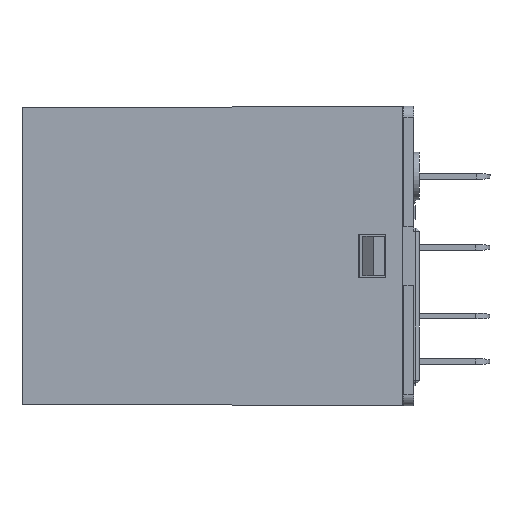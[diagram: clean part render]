
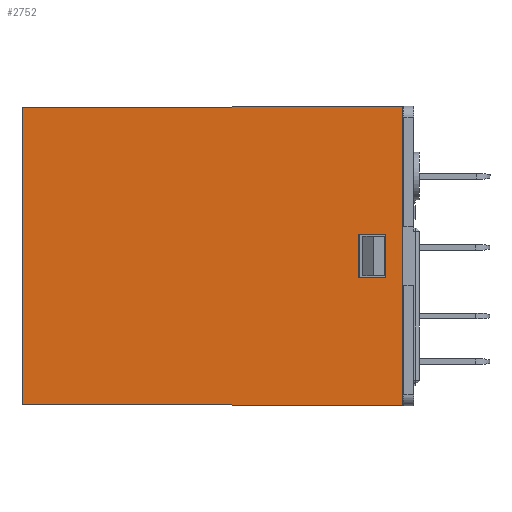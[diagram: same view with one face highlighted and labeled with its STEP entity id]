
A CAD part, left-side view. The second image highlights one B-rep face of the part: STEP entity #2752.
In plain terms, the highlighted planar face has unit normal (-1, 0.004, 0).
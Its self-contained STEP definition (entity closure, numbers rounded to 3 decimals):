
#605 = CARTESIAN_POINT ( 'NONE',  ( -10.45, -13.113, 2.47 ) ) ;
#683 = LINE ( 'NONE', #2312, #5050 ) ;
#708 = EDGE_CURVE ( 'NONE', #3206, #1600, #17160, .T. ) ;
#888 = CARTESIAN_POINT ( 'NONE',  ( -10.45, -13.113, -9.08 ) ) ;
#920 = FACE_BOUND ( 'NONE', #20544, .T. ) ;
#973 = ORIENTED_EDGE ( 'NONE', *, *, #17530, .T. ) ;
#1062 = ORIENTED_EDGE ( 'NONE', *, *, #7573, .T. ) ;
#1254 = DIRECTION ( 'NONE',  ( -0.004, -1., 0. ) ) ;
#1330 = VERTEX_POINT ( 'NONE', #20877 ) ;
#1600 = VERTEX_POINT ( 'NONE', #5379 ) ;
#1755 = VECTOR ( 'NONE', #1254, 1000. ) ;
#1784 = CARTESIAN_POINT ( 'NONE',  ( -10.3, 21.187, -8.93 ) ) ;
#2312 = CARTESIAN_POINT ( 'NONE',  ( -10.3, 21.187, -8.931 ) ) ;
#2330 = CARTESIAN_POINT ( 'NONE',  ( -10.45, -13.113, -9.08 ) ) ;
#2489 = AXIS2_PLACEMENT_3D ( 'NONE', #6088, #7952, #20881 ) ;
#2752 = ADVANCED_FACE ( 'NONE', ( #15052, #920 ), #19013, .T. ) ;
#3206 = VERTEX_POINT ( 'NONE', #10690 ) ;
#3483 = VERTEX_POINT ( 'NONE', #2330 ) ;
#3831 = VECTOR ( 'NONE', #14718, 1000. ) ;
#4181 = DIRECTION ( 'NONE',  ( 0., 0., 1. ) ) ;
#4187 = EDGE_CURVE ( 'NONE', #14389, #20763, #23569, .T. ) ;
#5050 = VECTOR ( 'NONE', #4181, 1000. ) ;
#5341 = CARTESIAN_POINT ( 'NONE',  ( -10.45, -13.021, 17.92 ) ) ;
#5369 = CARTESIAN_POINT ( 'NONE',  ( -10.45, -13.113, -9.08 ) ) ;
#5379 = CARTESIAN_POINT ( 'NONE',  ( -10.45, -13.113, 17.92 ) ) ;
#5582 = LINE ( 'NONE', #5369, #14816 ) ;
#5612 = VECTOR ( 'NONE', #7082, 1000. ) ;
#6088 = CARTESIAN_POINT ( 'NONE',  ( -10.45, -13.113, -9.08 ) ) ;
#6275 = VERTEX_POINT ( 'NONE', #1784 ) ;
#6477 = EDGE_CURVE ( 'NONE', #3483, #1600, #22294, .T. ) ;
#6669 = LINE ( 'NONE', #8528, #1755 ) ;
#7082 = DIRECTION ( 'NONE',  ( -0.004, -1., 0.004 ) ) ;
#7216 = DIRECTION ( 'NONE',  ( -0.004, -1., -0.004 ) ) ;
#7573 = EDGE_CURVE ( 'NONE', #1330, #14389, #16743, .T. ) ;
#7818 = DIRECTION ( 'NONE',  ( 0., 0., -1. ) ) ;
#7952 = DIRECTION ( 'NONE',  ( -1., 0.004, 0. ) ) ;
#8041 = ORIENTED_EDGE ( 'NONE', *, *, #708, .F. ) ;
#8214 = CARTESIAN_POINT ( 'NONE',  ( -10.433, -9.113, 6.37 ) ) ;
#8484 = CARTESIAN_POINT ( 'NONE',  ( -10.433, -9.113, 2.47 ) ) ;
#8528 = CARTESIAN_POINT ( 'NONE',  ( -10.45, -13.113, 6.37 ) ) ;
#10589 = VERTEX_POINT ( 'NONE', #8214 ) ;
#10690 = CARTESIAN_POINT ( 'NONE',  ( -10.3, 21.187, 17.77 ) ) ;
#10803 = EDGE_LOOP ( 'NONE', ( #8041, #22092, #21991, #23807 ) ) ;
#11742 = ORIENTED_EDGE ( 'NONE', *, *, #18951, .T. ) ;
#11836 = VECTOR ( 'NONE', #7818, 1000. ) ;
#13025 = VECTOR ( 'NONE', #15660, 1000. ) ;
#13284 = CARTESIAN_POINT ( 'NONE',  ( -10.443, -11.613, -9.08 ) ) ;
#13631 = LINE ( 'NONE', #22069, #3831 ) ;
#14389 = VERTEX_POINT ( 'NONE', #17512 ) ;
#14718 = DIRECTION ( 'NONE',  ( 0., 0., 1. ) ) ;
#14816 = VECTOR ( 'NONE', #7216, 1000. ) ;
#15052 = FACE_OUTER_BOUND ( 'NONE', #10803, .T. ) ;
#15379 = DIRECTION ( 'NONE',  ( 0.004, 1., 0. ) ) ;
#15660 = DIRECTION ( 'NONE',  ( 0., 0., 1. ) ) ;
#16743 = LINE ( 'NONE', #13284, #11836 ) ;
#17160 = LINE ( 'NONE', #5341, #5612 ) ;
#17449 = EDGE_CURVE ( 'NONE', #6275, #3483, #5582, .T. ) ;
#17512 = CARTESIAN_POINT ( 'NONE',  ( -10.443, -11.613, 2.47 ) ) ;
#17530 = EDGE_CURVE ( 'NONE', #20763, #10589, #13631, .T. ) ;
#18625 = VECTOR ( 'NONE', #15379, 1000. ) ;
#18951 = EDGE_CURVE ( 'NONE', #10589, #1330, #6669, .T. ) ;
#19013 = PLANE ( 'NONE',  #2489 ) ;
#19016 = ORIENTED_EDGE ( 'NONE', *, *, #4187, .T. ) ;
#20544 = EDGE_LOOP ( 'NONE', ( #19016, #973, #11742, #1062 ) ) ;
#20763 = VERTEX_POINT ( 'NONE', #8484 ) ;
#20877 = CARTESIAN_POINT ( 'NONE',  ( -10.443, -11.613, 6.37 ) ) ;
#20881 = DIRECTION ( 'NONE',  ( 0., 0., 1. ) ) ;
#21991 = ORIENTED_EDGE ( 'NONE', *, *, #17449, .T. ) ;
#22069 = CARTESIAN_POINT ( 'NONE',  ( -10.433, -9.113, 2.47 ) ) ;
#22092 = ORIENTED_EDGE ( 'NONE', *, *, #23595, .F. ) ;
#22294 = LINE ( 'NONE', #888, #13025 ) ;
#23569 = LINE ( 'NONE', #605, #18625 ) ;
#23595 = EDGE_CURVE ( 'NONE', #6275, #3206, #683, .T. ) ;
#23807 = ORIENTED_EDGE ( 'NONE', *, *, #6477, .T. ) ;
